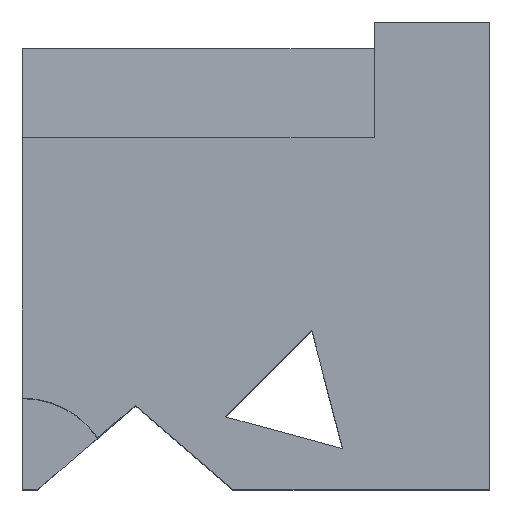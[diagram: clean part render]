
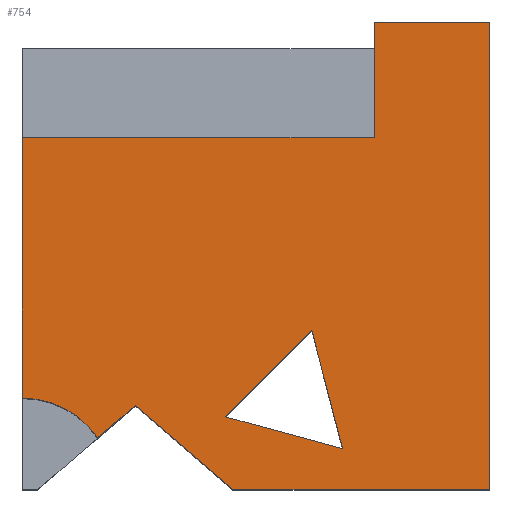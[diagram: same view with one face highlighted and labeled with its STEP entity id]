
A CAD part, top view. The second image highlights one B-rep face of the part: STEP entity #754.
In plain terms, the highlighted planar face has unit normal (0, 0, 1).
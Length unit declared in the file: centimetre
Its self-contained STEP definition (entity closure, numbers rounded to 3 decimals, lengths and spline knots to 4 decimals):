
#22 = CARTESIAN_POINT ( 'NONE',  ( 0., 1000., 1000. ) ) ;
#24 = CARTESIAN_POINT ( 'NONE',  ( 160.8529, 110.0709, 1000. ) ) ;
#33 = LINE ( 'NONE', #303, #536 ) ;
#36 = EDGE_CURVE ( 'NONE', #718, #116, #137, .T. ) ;
#66 = CARTESIAN_POINT ( 'NONE',  ( 1000., 1000., 1000. ) ) ;
#67 = DIRECTION ( 'NONE',  ( 1., 0., 0. ) ) ;
#70 = DIRECTION ( 'NONE',  ( -0.759, 0.652, 0. ) ) ;
#72 = DIRECTION ( 'NONE',  ( 1., 0., 0. ) ) ;
#82 = VERTEX_POINT ( 'NONE', #640 ) ;
#93 = ORIENTED_EDGE ( 'NONE', *, *, #212, .T. ) ;
#96 = LINE ( 'NONE', #442, #454 ) ;
#101 = DIRECTION ( 'NONE',  ( 0., 1., 0. ) ) ;
#111 = EDGE_LOOP ( 'NONE', ( #494, #161, #362 ) ) ;
#116 = VERTEX_POINT ( 'NONE', #24 ) ;
#131 = CARTESIAN_POINT ( 'NONE',  ( 241.5354, 179.3658, 1000. ) ) ;
#132 = VERTEX_POINT ( 'NONE', #359 ) ;
#135 = EDGE_LOOP ( 'NONE', ( #747, #448, #555, #403, #749, #669, #729, #93, #423 ) ) ;
#137 = LINE ( 'NONE', #697, #311 ) ;
#161 = ORIENTED_EDGE ( 'NONE', *, *, #776, .F. ) ;
#171 = CARTESIAN_POINT ( 'NONE',  ( 752.9731, 1000., 1000. ) ) ;
#183 = PLANE ( 'NONE',  #578 ) ;
#192 = EDGE_CURVE ( 'NONE', #760, #316, #33, .T. ) ;
#211 = VERTEX_POINT ( 'NONE', #504 ) ;
#212 = EDGE_CURVE ( 'NONE', #389, #568, #222, .T. ) ;
#213 = VERTEX_POINT ( 'NONE', #235 ) ;
#222 = LINE ( 'NONE', #22, #696 ) ;
#235 = CARTESIAN_POINT ( 'NONE',  ( 752.9731, 752.2281, 1000. ) ) ;
#245 = CARTESIAN_POINT ( 'NONE',  ( 0., 194.9083, 1000. ) ) ;
#265 = VECTOR ( 'NONE', #346, 100. ) ;
#273 = CARTESIAN_POINT ( 'NONE',  ( 0., 752.2281, 1000. ) ) ;
#278 = CIRCLE ( 'NONE', #418, 194.9083 ) ;
#303 = CARTESIAN_POINT ( 'NONE',  ( 0., 1000., 1000. ) ) ;
#311 = VECTOR ( 'NONE', #409, 100. ) ;
#316 = VERTEX_POINT ( 'NONE', #245 ) ;
#317 = FACE_OUTER_BOUND ( 'NONE', #135, .T. ) ;
#325 = CARTESIAN_POINT ( 'NONE',  ( 619.769, 338.838, 1000. ) ) ;
#336 = LINE ( 'NONE', #534, #732 ) ;
#337 = VERTEX_POINT ( 'NONE', #533 ) ;
#343 = CARTESIAN_POINT ( 'NONE',  ( 0., 0., 1000. ) ) ;
#346 = DIRECTION ( 'NONE',  ( -0.707, -0.707, 0. ) ) ;
#348 = LINE ( 'NONE', #426, #876 ) ;
#357 = EDGE_CURVE ( 'NONE', #213, #568, #437, .T. ) ;
#359 = CARTESIAN_POINT ( 'NONE',  ( 435.5975, 154.6664, 1000. ) ) ;
#362 = ORIENTED_EDGE ( 'NONE', *, *, #869, .F. ) ;
#371 = CARTESIAN_POINT ( 'NONE',  ( 1000., 1000., 1000. ) ) ;
#382 = VERTEX_POINT ( 'NONE', #325 ) ;
#387 = EDGE_CURVE ( 'NONE', #82, #389, #528, .T. ) ;
#389 = VERTEX_POINT ( 'NONE', #371 ) ;
#399 = DIRECTION ( 'NONE',  ( -1., 0., 0. ) ) ;
#403 = ORIENTED_EDGE ( 'NONE', *, *, #36, .F. ) ;
#408 = VECTOR ( 'NONE', #70, 100. ) ;
#409 = DIRECTION ( 'NONE',  ( -0.759, -0.652, 0. ) ) ;
#414 = CARTESIAN_POINT ( 'NONE',  ( 619.769, 338.838, 1000. ) ) ;
#418 = AXIS2_PLACEMENT_3D ( 'NONE', #529, #796, #597 ) ;
#423 = ORIENTED_EDGE ( 'NONE', *, *, #357, .F. ) ;
#426 = CARTESIAN_POINT ( 'NONE',  ( 685.3064, 86.7529, 1000. ) ) ;
#437 = LINE ( 'NONE', #171, #588 ) ;
#442 = CARTESIAN_POINT ( 'NONE',  ( 435.5975, 154.6664, 1000. ) ) ;
#448 = ORIENTED_EDGE ( 'NONE', *, *, #192, .T. ) ;
#454 = VECTOR ( 'NONE', #655, 100. ) ;
#463 = LINE ( 'NONE', #859, #847 ) ;
#494 = ORIENTED_EDGE ( 'NONE', *, *, #516, .F. ) ;
#504 = CARTESIAN_POINT ( 'NONE',  ( 685.3064, 86.7529, 1000. ) ) ;
#516 = EDGE_CURVE ( 'NONE', #132, #211, #96, .T. ) ;
#528 = LINE ( 'NONE', #66, #826 ) ;
#529 = CARTESIAN_POINT ( 'NONE',  ( 0., 0., 1000. ) ) ;
#533 = CARTESIAN_POINT ( 'NONE',  ( 450.3773, 0., 1000. ) ) ;
#534 = CARTESIAN_POINT ( 'NONE',  ( 752.9731, 752.2281, 1000. ) ) ;
#536 = VECTOR ( 'NONE', #580, 100. ) ;
#555 = ORIENTED_EDGE ( 'NONE', *, *, #598, .F. ) ;
#568 = VERTEX_POINT ( 'NONE', #839 ) ;
#578 = AXIS2_PLACEMENT_3D ( 'NONE', #343, #818, #72 ) ;
#580 = DIRECTION ( 'NONE',  ( 0., -1., 0. ) ) ;
#588 = VECTOR ( 'NONE', #850, 100. ) ;
#597 = DIRECTION ( 'NONE',  ( 1., 0., 0. ) ) ;
#598 = EDGE_CURVE ( 'NONE', #116, #316, #278, .T. ) ;
#613 = LINE ( 'NONE', #750, #408 ) ;
#616 = LINE ( 'NONE', #414, #265 ) ;
#640 = CARTESIAN_POINT ( 'NONE',  ( 1000., 0., 1000. ) ) ;
#655 = DIRECTION ( 'NONE',  ( 0.965, -0.262, 0. ) ) ;
#665 = EDGE_CURVE ( 'NONE', #213, #760, #336, .T. ) ;
#669 = ORIENTED_EDGE ( 'NONE', *, *, #702, .T. ) ;
#696 = VECTOR ( 'NONE', #851, 100. ) ;
#697 = CARTESIAN_POINT ( 'NONE',  ( 32.6935, 0., 1000. ) ) ;
#702 = EDGE_CURVE ( 'NONE', #337, #82, #463, .T. ) ;
#718 = VERTEX_POINT ( 'NONE', #131 ) ;
#729 = ORIENTED_EDGE ( 'NONE', *, *, #387, .T. ) ;
#732 = VECTOR ( 'NONE', #399, 100. ) ;
#747 = ORIENTED_EDGE ( 'NONE', *, *, #665, .T. ) ;
#749 = ORIENTED_EDGE ( 'NONE', *, *, #790, .F. ) ;
#750 = CARTESIAN_POINT ( 'NONE',  ( 241.5354, 179.3658, 1000. ) ) ;
#754 = ADVANCED_FACE ( 'NONE', ( #317, #793 ), #183, .T. ) ;
#760 = VERTEX_POINT ( 'NONE', #273 ) ;
#776 = EDGE_CURVE ( 'NONE', #382, #132, #616, .T. ) ;
#790 = EDGE_CURVE ( 'NONE', #337, #718, #613, .T. ) ;
#793 = FACE_BOUND ( 'NONE', #111, .T. ) ;
#796 = DIRECTION ( 'NONE',  ( 0., 0., 1. ) ) ;
#818 = DIRECTION ( 'NONE',  ( 0., 0., 1. ) ) ;
#826 = VECTOR ( 'NONE', #101, 100. ) ;
#834 = DIRECTION ( 'NONE',  ( -0.252, 0.968, 0. ) ) ;
#839 = CARTESIAN_POINT ( 'NONE',  ( 752.9731, 1000., 1000. ) ) ;
#847 = VECTOR ( 'NONE', #67, 100. ) ;
#850 = DIRECTION ( 'NONE',  ( 0., 1., 0. ) ) ;
#851 = DIRECTION ( 'NONE',  ( -1., 0., 0. ) ) ;
#859 = CARTESIAN_POINT ( 'NONE',  ( 0., 0., 1000. ) ) ;
#869 = EDGE_CURVE ( 'NONE', #211, #382, #348, .T. ) ;
#876 = VECTOR ( 'NONE', #834, 100. ) ;
